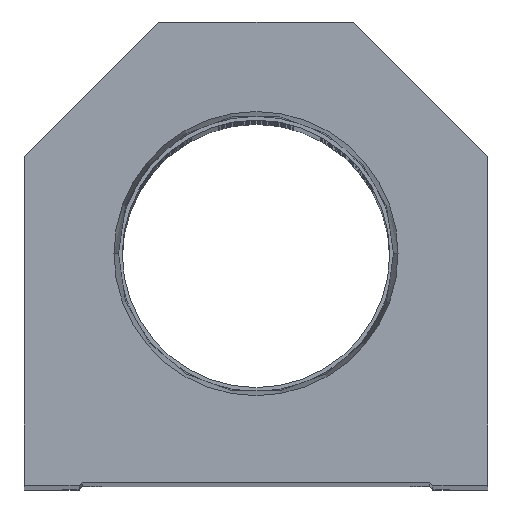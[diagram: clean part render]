
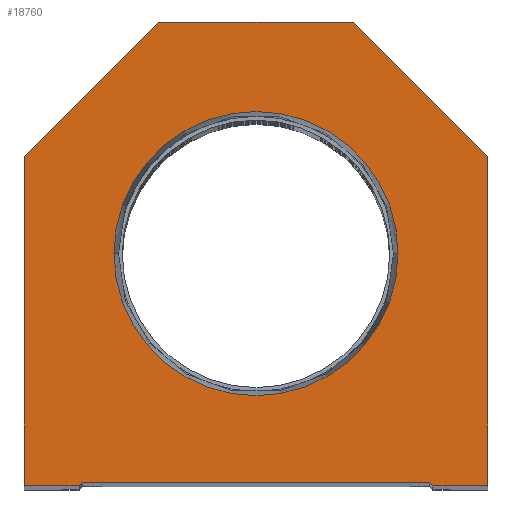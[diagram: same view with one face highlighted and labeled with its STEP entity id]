
A CAD part, top view. The second image highlights one B-rep face of the part: STEP entity #18760.
In plain terms, the highlighted planar face has unit normal (0, 0, 1).
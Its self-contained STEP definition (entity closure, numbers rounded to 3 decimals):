
#69 = CARTESIAN_POINT ( 'NONE',  ( -23.374, 38.1, 0. ) ) ;
#81 = ORIENTED_EDGE ( 'NONE', *, *, #20450, .T. ) ;
#230 = CARTESIAN_POINT ( 'NONE',  ( 14.55, 14.55, 0. ) ) ;
#335 = EDGE_CURVE ( 'NONE', #1229, #19152, #11557, .T. ) ;
#1229 = VERTEX_POINT ( 'NONE', #5976 ) ;
#1265 = VECTOR ( 'NONE', #17832, 1000. ) ;
#1501 = LINE ( 'NONE', #4976, #3470 ) ;
#1790 = EDGE_CURVE ( 'NONE', #7727, #15384, #10355, .T. ) ;
#1852 = CARTESIAN_POINT ( 'NONE',  ( -14.55, 14.55, 0. ) ) ;
#1919 = EDGE_CURVE ( 'NONE', #9797, #20163, #4270, .T. ) ;
#2064 = DIRECTION ( 'NONE',  ( 0., 0., 1. ) ) ;
#2112 = ORIENTED_EDGE ( 'NONE', *, *, #9847, .T. ) ;
#2408 = CARTESIAN_POINT ( 'NONE',  ( 16., 76.2, 0. ) ) ;
#2475 = CARTESIAN_POINT ( 'NONE',  ( 28.6, 0.5, 0. ) ) ;
#2482 = ORIENTED_EDGE ( 'NONE', *, *, #21803, .T. ) ;
#2531 = DIRECTION ( 'NONE',  ( 1., 0., 0. ) ) ;
#3470 = VECTOR ( 'NONE', #7545, 1000. ) ;
#3719 = DIRECTION ( 'NONE',  ( 1., 0., 0. ) ) ;
#4019 = VECTOR ( 'NONE', #10758, 1000. ) ;
#4021 = CARTESIAN_POINT ( 'NONE',  ( -38.1, 54.1, 0. ) ) ;
#4082 = EDGE_CURVE ( 'NONE', #5379, #22094, #10390, .T. ) ;
#4270 = LINE ( 'NONE', #9001, #1265 ) ;
#4463 = DIRECTION ( 'NONE',  ( 1., 0., 0. ) ) ;
#4577 = EDGE_LOOP ( 'NONE', ( #4729, #17629, #2482, #5329, #21040, #6550, #81, #6225, #6778, #2112 ) ) ;
#4729 = ORIENTED_EDGE ( 'NONE', *, *, #19049, .T. ) ;
#4976 = CARTESIAN_POINT ( 'NONE',  ( -28.6, 0.5, 0. ) ) ;
#4988 = DIRECTION ( 'NONE',  ( 0.707, 0.707, 0. ) ) ;
#5201 = CIRCLE ( 'NONE', #6983, 23.374 ) ;
#5202 = DIRECTION ( 'NONE',  ( 0., 0., 1. ) ) ;
#5329 = ORIENTED_EDGE ( 'NONE', *, *, #4082, .T. ) ;
#5379 = VERTEX_POINT ( 'NONE', #2475 ) ;
#5446 = DIRECTION ( 'NONE',  ( 0., 1., 0. ) ) ;
#5924 = EDGE_CURVE ( 'NONE', #21624, #9576, #19312, .T. ) ;
#5976 = CARTESIAN_POINT ( 'NONE',  ( 23.374, 38.1, 0. ) ) ;
#6225 = ORIENTED_EDGE ( 'NONE', *, *, #1919, .T. ) ;
#6467 = CARTESIAN_POINT ( 'NONE',  ( 0., 38.1, 0. ) ) ;
#6520 = ORIENTED_EDGE ( 'NONE', *, *, #335, .F. ) ;
#6550 = ORIENTED_EDGE ( 'NONE', *, *, #5924, .T. ) ;
#6778 = ORIENTED_EDGE ( 'NONE', *, *, #8954, .T. ) ;
#6833 = DIRECTION ( 'NONE',  ( 0.707, -0.707, 0. ) ) ;
#6891 = LINE ( 'NONE', #8677, #14484 ) ;
#6983 = AXIS2_PLACEMENT_3D ( 'NONE', #18968, #5202, #8236 ) ;
#7382 = LINE ( 'NONE', #16071, #12676 ) ;
#7545 = DIRECTION ( 'NONE',  ( 1., 0., 0. ) ) ;
#7727 = VERTEX_POINT ( 'NONE', #15831 ) ;
#8014 = VECTOR ( 'NONE', #21660, 1000. ) ;
#8236 = DIRECTION ( 'NONE',  ( 1., 0., 0. ) ) ;
#8677 = CARTESIAN_POINT ( 'NONE',  ( 38.1, 54.1, 0. ) ) ;
#8760 = CARTESIAN_POINT ( 'NONE',  ( 28.6, 0., 0. ) ) ;
#8788 = DIRECTION ( 'NONE',  ( -0.707, 0.707, 0. ) ) ;
#8875 = EDGE_CURVE ( 'NONE', #22094, #21624, #13895, .T. ) ;
#8954 = EDGE_CURVE ( 'NONE', #20163, #10470, #12221, .T. ) ;
#9001 = CARTESIAN_POINT ( 'NONE',  ( 16., 76.2, 0. ) ) ;
#9149 = CARTESIAN_POINT ( 'NONE',  ( 38.1, 0., 0. ) ) ;
#9190 = DIRECTION ( 'NONE',  ( 0., 0., 1. ) ) ;
#9193 = CARTESIAN_POINT ( 'NONE',  ( 29.1, 0., 0. ) ) ;
#9576 = VERTEX_POINT ( 'NONE', #9818 ) ;
#9797 = VERTEX_POINT ( 'NONE', #2408 ) ;
#9818 = CARTESIAN_POINT ( 'NONE',  ( 38.1, 54.1, 0. ) ) ;
#9847 = EDGE_CURVE ( 'NONE', #10470, #17114, #11479, .T. ) ;
#10160 = CARTESIAN_POINT ( 'NONE',  ( -38.1, 0., 0. ) ) ;
#10355 = LINE ( 'NONE', #1852, #14772 ) ;
#10390 = LINE ( 'NONE', #230, #16446 ) ;
#10470 = VERTEX_POINT ( 'NONE', #15066 ) ;
#10724 = EDGE_CURVE ( 'NONE', #19152, #1229, #5201, .T. ) ;
#10758 = DIRECTION ( 'NONE',  ( 1., 0., 0. ) ) ;
#10884 = CARTESIAN_POINT ( 'NONE',  ( -28.6, 0.5, 0. ) ) ;
#10972 = FACE_BOUND ( 'NONE', #13494, .T. ) ;
#11075 = PLANE ( 'NONE',  #14421 ) ;
#11479 = LINE ( 'NONE', #16151, #8014 ) ;
#11532 = ORIENTED_EDGE ( 'NONE', *, *, #10724, .F. ) ;
#11557 = CIRCLE ( 'NONE', #14373, 23.374 ) ;
#11922 = VECTOR ( 'NONE', #19265, 1000. ) ;
#12221 = LINE ( 'NONE', #4021, #11922 ) ;
#12676 = VECTOR ( 'NONE', #2531, 1000. ) ;
#13494 = EDGE_LOOP ( 'NONE', ( #6520, #11532 ) ) ;
#13673 = VECTOR ( 'NONE', #5446, 1000. ) ;
#13895 = LINE ( 'NONE', #8760, #4019 ) ;
#14237 = CARTESIAN_POINT ( 'NONE',  ( 38.1, 0., 0. ) ) ;
#14373 = AXIS2_PLACEMENT_3D ( 'NONE', #6467, #2064, #3719 ) ;
#14421 = AXIS2_PLACEMENT_3D ( 'NONE', #19344, #9190, #4463 ) ;
#14484 = VECTOR ( 'NONE', #8788, 1000. ) ;
#14772 = VECTOR ( 'NONE', #4988, 1000. ) ;
#15066 = CARTESIAN_POINT ( 'NONE',  ( -38.1, 54.1, 0. ) ) ;
#15384 = VERTEX_POINT ( 'NONE', #10884 ) ;
#15831 = CARTESIAN_POINT ( 'NONE',  ( -29.1, 0., 0. ) ) ;
#15952 = CARTESIAN_POINT ( 'NONE',  ( -16., 76.2, 0. ) ) ;
#16071 = CARTESIAN_POINT ( 'NONE',  ( -28.6, 0., 0. ) ) ;
#16151 = CARTESIAN_POINT ( 'NONE',  ( -38.1, 0., 0. ) ) ;
#16446 = VECTOR ( 'NONE', #6833, 1000. ) ;
#17114 = VERTEX_POINT ( 'NONE', #10160 ) ;
#17629 = ORIENTED_EDGE ( 'NONE', *, *, #1790, .T. ) ;
#17832 = DIRECTION ( 'NONE',  ( -1., 0., 0. ) ) ;
#18760 = ADVANCED_FACE ( 'NONE', ( #10972, #21263 ), #11075, .T. ) ;
#18968 = CARTESIAN_POINT ( 'NONE',  ( 0., 38.1, 0. ) ) ;
#19049 = EDGE_CURVE ( 'NONE', #17114, #7727, #7382, .T. ) ;
#19152 = VERTEX_POINT ( 'NONE', #69 ) ;
#19265 = DIRECTION ( 'NONE',  ( -0.707, -0.707, 0. ) ) ;
#19312 = LINE ( 'NONE', #9149, #13673 ) ;
#19344 = CARTESIAN_POINT ( 'NONE',  ( 0., 0., 0. ) ) ;
#20163 = VERTEX_POINT ( 'NONE', #15952 ) ;
#20450 = EDGE_CURVE ( 'NONE', #9576, #9797, #6891, .T. ) ;
#21040 = ORIENTED_EDGE ( 'NONE', *, *, #8875, .T. ) ;
#21263 = FACE_OUTER_BOUND ( 'NONE', #4577, .T. ) ;
#21624 = VERTEX_POINT ( 'NONE', #14237 ) ;
#21660 = DIRECTION ( 'NONE',  ( 0., -1., 0. ) ) ;
#21803 = EDGE_CURVE ( 'NONE', #15384, #5379, #1501, .T. ) ;
#22094 = VERTEX_POINT ( 'NONE', #9193 ) ;
